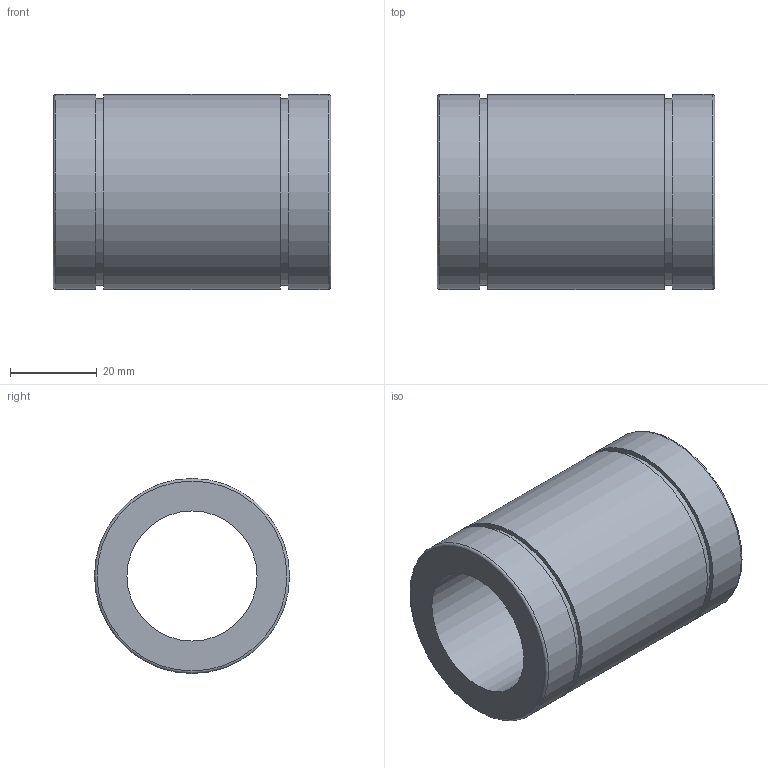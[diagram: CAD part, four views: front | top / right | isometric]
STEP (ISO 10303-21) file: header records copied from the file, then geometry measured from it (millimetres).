
FILE_DESCRIPTION(('STEP AP203'),'1');
FILE_NAME('//192.168.1.1/share/s-4 技術開発/s-4-13_CAD/03_見直し済み/001 修正済み/N/N_TOP/N-30L.step','2020-04-02T23:54:42',(' '),(' '),'Spatial InterOp 3D',' ',' ');
FILE_SCHEMA(('CONFIG_CONTROL_DESIGN'));
Length unit declared in the file: millimetre
Products named in the file (1): 1
Bounding box: 64 x 45 x 45 mm (x, y, z)
Volume: 56015.5 mm3; surface area: 17303.3 mm2
Topology: 1 solids, 1 shells, 14 faces, 24 edges, 16 vertices
Faces by surface type: cylinder 6, plane 6, torus 2
Full cylindrical faces by diameter (mm): 30 x1, 43 x2, 45 x3
Entity records: 332 total; most frequent: DIRECTION 58, CARTESIAN_POINT 43, AXIS2_PLACEMENT_3D 29, EDGE_LOOP 28, ORIENTED_EDGE 28, FACE_OUTER_BOUND 22, ADVANCED_FACE 14, EDGE_CURVE 14
